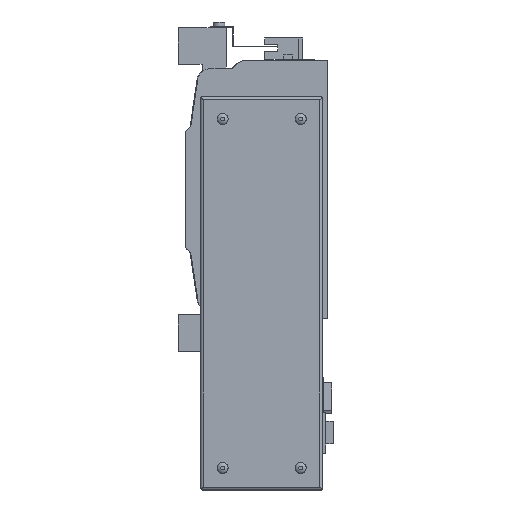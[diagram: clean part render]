
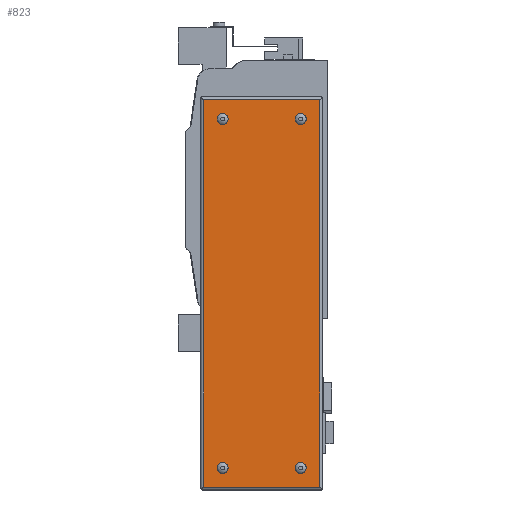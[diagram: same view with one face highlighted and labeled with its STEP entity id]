
A CAD part, left-side view. The second image highlights one B-rep face of the part: STEP entity #823.
In plain terms, the highlighted planar face has unit normal (-1, 0, 0).
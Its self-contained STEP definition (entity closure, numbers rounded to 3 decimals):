
#823 = ADVANCED_FACE( '', ( #2071, #2072, #2073, #2074, #2075 ), #2076, .F. );
#2071 = FACE_BOUND( '', #3974, .T. );
#2072 = FACE_BOUND( '', #3975, .T. );
#2073 = FACE_BOUND( '', #3976, .T. );
#2074 = FACE_BOUND( '', #3977, .T. );
#2075 = FACE_OUTER_BOUND( '', #3978, .T. );
#2076 = PLANE( '', #3979 );
#3974 = EDGE_LOOP( '', ( #6087 ) );
#3975 = EDGE_LOOP( '', ( #6088 ) );
#3976 = EDGE_LOOP( '', ( #6089 ) );
#3977 = EDGE_LOOP( '', ( #6090 ) );
#3978 = EDGE_LOOP( '', ( #6091, #6092, #6093, #6094 ) );
#3979 = AXIS2_PLACEMENT_3D( '', #6095, #6096, #6097 );
#6087 = ORIENTED_EDGE( '', *, *, #11028, .F. );
#6088 = ORIENTED_EDGE( '', *, *, #11029, .F. );
#6089 = ORIENTED_EDGE( '', *, *, #11030, .F. );
#6090 = ORIENTED_EDGE( '', *, *, #11031, .F. );
#6091 = ORIENTED_EDGE( '', *, *, #11032, .F. );
#6092 = ORIENTED_EDGE( '', *, *, #11033, .F. );
#6093 = ORIENTED_EDGE( '', *, *, #11034, .T. );
#6094 = ORIENTED_EDGE( '', *, *, #11035, .T. );
#6095 = CARTESIAN_POINT( '', ( -66., 0., 0. ) );
#6096 = DIRECTION( '', ( 1., 0., 0. ) );
#6097 = DIRECTION( '', ( 0., 0., -1. ) );
#11028 = EDGE_CURVE( '', #13171, #13171, #13172, .F. );
#11029 = EDGE_CURVE( '', #13173, #13173, #13174, .F. );
#11030 = EDGE_CURVE( '', #13175, #13175, #13176, .F. );
#11031 = EDGE_CURVE( '', #13177, #13177, #13178, .F. );
#11032 = EDGE_CURVE( '', #13179, #13180, #13181, .T. );
#11033 = EDGE_CURVE( '', #13182, #13179, #13183, .T. );
#11034 = EDGE_CURVE( '', #13182, #13184, #13185, .T. );
#11035 = EDGE_CURVE( '', #13184, #13180, #13186, .T. );
#13171 = VERTEX_POINT( '', #16245 );
#13172 = CIRCLE( '', #16246, 3.7 );
#13173 = VERTEX_POINT( '', #16247 );
#13174 = CIRCLE( '', #16248, 3.7 );
#13175 = VERTEX_POINT( '', #16249 );
#13176 = CIRCLE( '', #16250, 3.7 );
#13177 = VERTEX_POINT( '', #16251 );
#13178 = CIRCLE( '', #16252, 3.7 );
#13179 = VERTEX_POINT( '', #16253 );
#13180 = VERTEX_POINT( '', #16254 );
#13181 = LINE( '', #16255, #16256 );
#13182 = VERTEX_POINT( '', #16257 );
#13183 = LINE( '', #16258, #16259 );
#13184 = VERTEX_POINT( '', #16260 );
#13185 = LINE( '', #16261, #16262 );
#13186 = LINE( '', #16263, #16264 );
#16245 = CARTESIAN_POINT( '', ( -66., 71.5, -192.7 ) );
#16246 = AXIS2_PLACEMENT_3D( '', #19982, #19983, #19984 );
#16247 = CARTESIAN_POINT( '', ( -66., 18.5, 44.3 ) );
#16248 = AXIS2_PLACEMENT_3D( '', #19985, #19986, #19987 );
#16249 = CARTESIAN_POINT( '', ( -66., 18.5, -192.7 ) );
#16250 = AXIS2_PLACEMENT_3D( '', #19988, #19989, #19990 );
#16251 = CARTESIAN_POINT( '', ( -66., 71.5, 44.3 ) );
#16252 = AXIS2_PLACEMENT_3D( '', #19991, #19992, #19993 );
#16253 = CARTESIAN_POINT( '', ( -66., 5.5, 61. ) );
#16254 = CARTESIAN_POINT( '', ( -66., 5.5, -202. ) );
#16255 = CARTESIAN_POINT( '', ( -66., 5.5, 267. ) );
#16256 = VECTOR( '', #19994, 1000. );
#16257 = CARTESIAN_POINT( '', ( -66., 84.5, 61. ) );
#16258 = CARTESIAN_POINT( '', ( -66., 267., 61. ) );
#16259 = VECTOR( '', #19995, 1000. );
#16260 = CARTESIAN_POINT( '', ( -66., 84.5, -202. ) );
#16261 = CARTESIAN_POINT( '', ( -66., 84.5, 267. ) );
#16262 = VECTOR( '', #19996, 1000. );
#16263 = CARTESIAN_POINT( '', ( -66., 267., -202. ) );
#16264 = VECTOR( '', #19997, 1000. );
#19982 = CARTESIAN_POINT( '', ( -66., 71.5, -189. ) );
#19983 = DIRECTION( '', ( 1., 0., 0. ) );
#19984 = DIRECTION( '', ( 0., 0., -1. ) );
#19985 = CARTESIAN_POINT( '', ( -66., 18.5, 48. ) );
#19986 = DIRECTION( '', ( 1., 0., 0. ) );
#19987 = DIRECTION( '', ( 0., 0., -1. ) );
#19988 = CARTESIAN_POINT( '', ( -66., 18.5, -189. ) );
#19989 = DIRECTION( '', ( 1., 0., 0. ) );
#19990 = DIRECTION( '', ( 0., 0., -1. ) );
#19991 = CARTESIAN_POINT( '', ( -66., 71.5, 48. ) );
#19992 = DIRECTION( '', ( 1., 0., 0. ) );
#19993 = DIRECTION( '', ( 0., 0., -1. ) );
#19994 = DIRECTION( '', ( 0., 0., -1. ) );
#19995 = DIRECTION( '', ( 0., -1., 0. ) );
#19996 = DIRECTION( '', ( 0., 0., -1. ) );
#19997 = DIRECTION( '', ( 0., -1., 0. ) );
